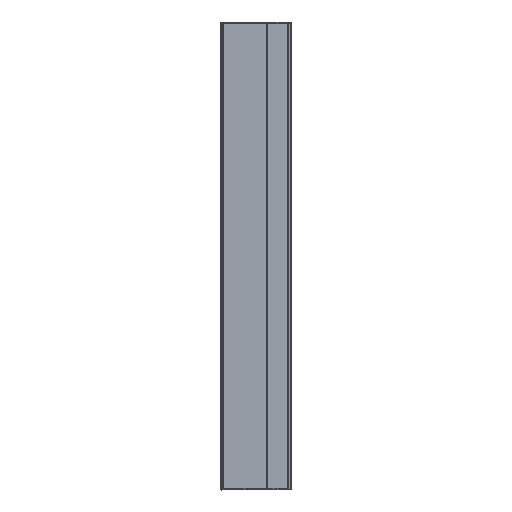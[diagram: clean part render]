
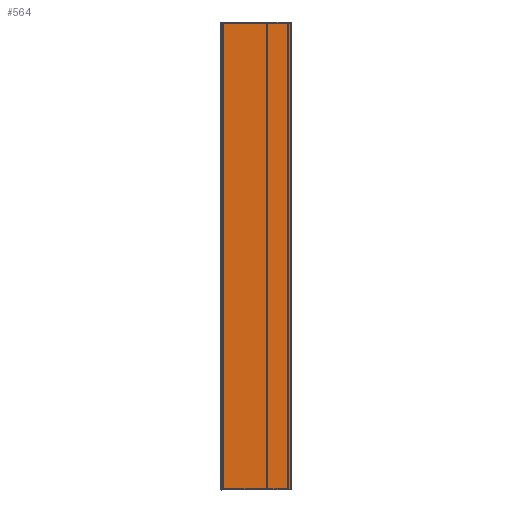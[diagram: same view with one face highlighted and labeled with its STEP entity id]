
A CAD part, left-side view. The second image highlights one B-rep face of the part: STEP entity #564.
In plain terms, the highlighted planar face has unit normal (-1, 0, 0).
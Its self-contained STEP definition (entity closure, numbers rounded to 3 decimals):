
#564=ADVANCED_FACE('',(#1973),#1975,.T.);
#1973=FACE_BOUND('',#1974,.T.);
#1974=EDGE_LOOP('',(#6794,#6795,#6796,#6797));
#1975=PLANE('',#1976);
#1976=AXIS2_PLACEMENT_3D('',#1977,#1978,#1979);
#1977=CARTESIAN_POINT('',(-17.5,4.,-264.5));
#1978=DIRECTION('',(-1.,0.,0.));
#1979=DIRECTION('',(0.,-1.,0.));
#6794=ORIENTED_EDGE('',*,*,#9725,.T.);
#6795=ORIENTED_EDGE('',*,*,#10064,.T.);
#6796=ORIENTED_EDGE('',*,*,#9908,.F.);
#6797=ORIENTED_EDGE('',*,*,#10065,.F.);
#9725=EDGE_CURVE('',#11590,#11588,#11591,.F.);
#9908=EDGE_CURVE('',#11952,#11954,#11955,.T.);
#10064=EDGE_CURVE('',#11588,#11954,#12179,.T.);
#10065=EDGE_CURVE('',#11590,#11952,#12180,.T.);
#11588=VERTEX_POINT('',#14788);
#11590=VERTEX_POINT('',#14793);
#11591=LINE('',#14794,#14795);
#11952=VERTEX_POINT('',#15628);
#11954=VERTEX_POINT('',#15633);
#11955=LINE('',#15634,#15635);
#12179=LINE('',#16212,#16213);
#12180=LINE('',#16215,#16216);
#14788=CARTESIAN_POINT('',(-17.5,-73.75,-264.5));
#14793=CARTESIAN_POINT('',(-17.5,4.,-264.5));
#14794=CARTESIAN_POINT('',(-17.5,-73.75,-264.5));
#14795=VECTOR('',#14796,1.);
#14796=DIRECTION('',(0.,1.,0.));
#15628=CARTESIAN_POINT('',(-17.5,4.,264.5));
#15633=CARTESIAN_POINT('',(-17.5,-73.75,264.5));
#15634=CARTESIAN_POINT('',(-17.5,4.,264.5));
#15635=VECTOR('',#15636,1.);
#15636=DIRECTION('',(0.,-1.,0.));
#16212=CARTESIAN_POINT('',(-17.5,-73.75,-264.5));
#16213=VECTOR('',#16214,1.);
#16214=DIRECTION('',(0.,0.,1.));
#16215=CARTESIAN_POINT('',(-17.5,4.,-264.5));
#16216=VECTOR('',#16217,1.);
#16217=DIRECTION('',(0.,0.,1.));
